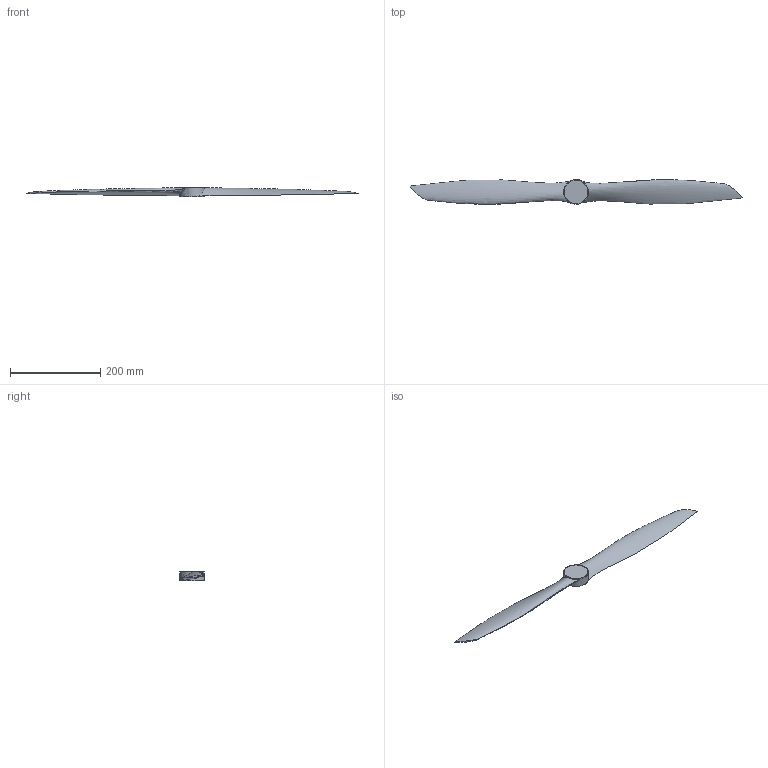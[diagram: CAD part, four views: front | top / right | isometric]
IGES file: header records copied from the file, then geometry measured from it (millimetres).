
Global section: file name: C:\NX6_files\panya_v3_29x8.igs; native system: NX V6.0; preprocessor: SIEMENS UGS NX 6.0; date: 20101224.201021; units: millimetre
Bounding box: 736.6 x 55 x 20 mm (x, y, z)
Surface area: 72228.2 mm2 (no closed solid volume)
Topology: 0 solids, 0 shells, 16 faces, 721 edges, 1262 vertices
Faces by surface type: bspline 16
